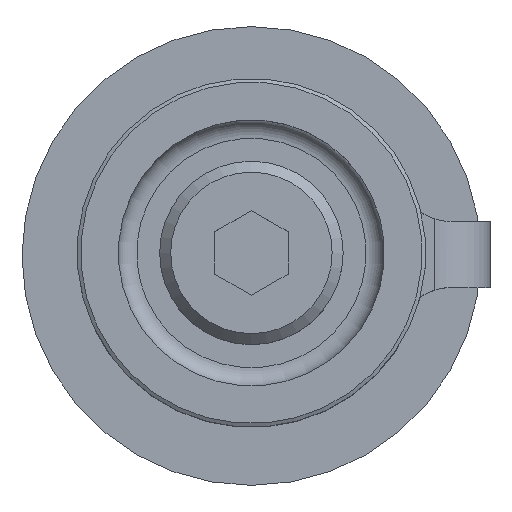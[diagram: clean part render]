
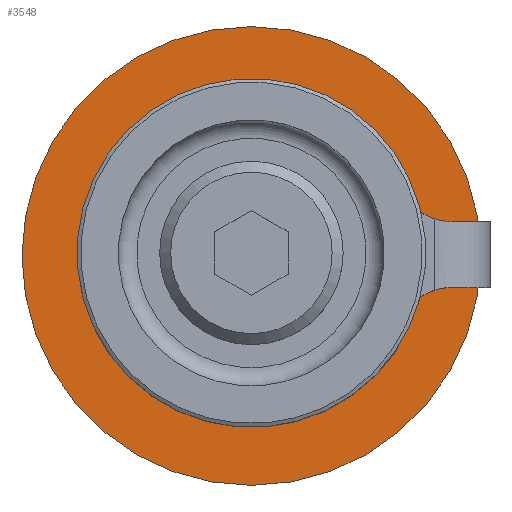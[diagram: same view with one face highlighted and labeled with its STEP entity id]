
A CAD part, top view. The second image highlights one B-rep face of the part: STEP entity #3548.
In plain terms, the highlighted planar face has unit normal (0, 0, 1).
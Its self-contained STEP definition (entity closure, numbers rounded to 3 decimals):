
#3159=FACE_OUTER_BOUND('',#4221,.T.);
#3457=PLANE('',#7353);
#3548=ADVANCED_FACE('',(#3159),#3457,.F.);
#4221=EDGE_LOOP('',(#4640));
#4640=ORIENTED_EDGE('',*,*,#6429,.F.);
#5969=VERTEX_POINT('',#9294);
#6429=EDGE_CURVE('',#5969,#5969,#7099,.T.);
#7099=CIRCLE('',#7348,12.5);
#7348=AXIS2_PLACEMENT_3D('',#9293,#7934,#7935);
#7353=AXIS2_PLACEMENT_3D('',#9299,#7944,#7945);
#7934=DIRECTION('',(0.,0.,-1.));
#7935=DIRECTION('',(0.,1.,0.));
#7944=DIRECTION('',(0.,0.,-1.));
#7945=DIRECTION('',(-1.,0.,0.));
#9293=CARTESIAN_POINT('',(0.,0.,70.));
#9294=CARTESIAN_POINT('',(0.,12.5,70.));
#9299=CARTESIAN_POINT('',(0.,0.,70.));
